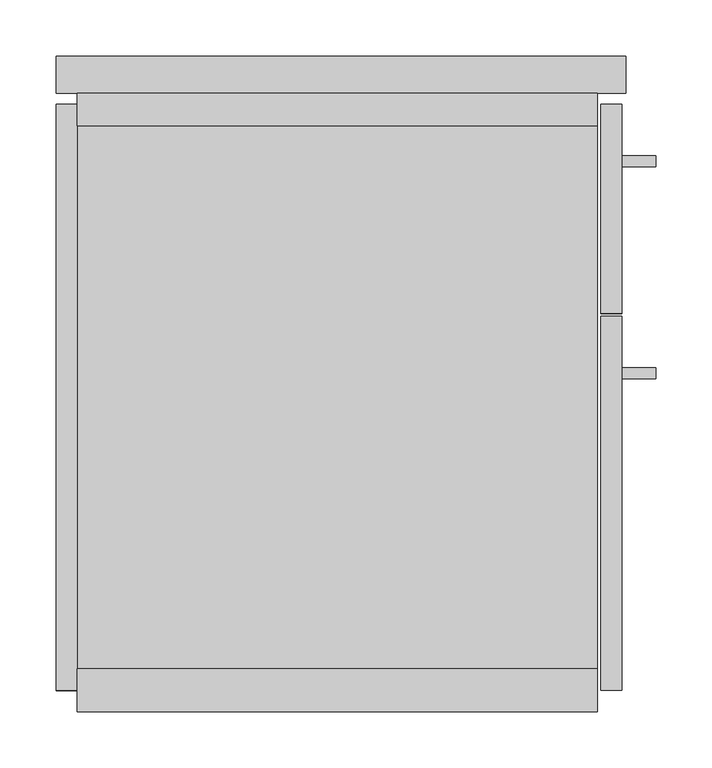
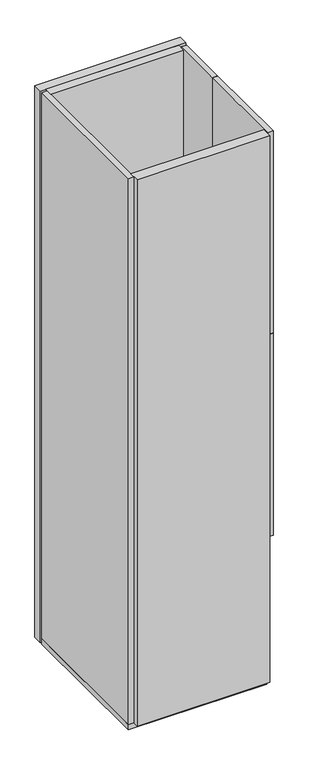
"""IFC4 building model written with IfcOpenShell, lengths in millimetres: proxy geometry, BASYS^U OFFICE 6_ MOD CREDENZA-SOLID ASSEMBLY."""

from ifc_helpers import new_model, si_unit, frame, origin, origin_with_axes, place, context, project, spatial, polyline, outline, extrude, source, transform, mapped, element, save


def generic_models_195da313(model_context):
    return source(origin(), model_context, "Body", "SweptSolid", [
        extrude(outline(polyline([(534.9875, 296.8625), (504.825, 296.8625), (504.825, 306.3875), (534.9875, 306.3875), (534.9875, 296.8625)])), frame((0.0, 0.0, 845.34375), z_axis=(0.0, 0.0, 1.0), x_axis=(1.0, 0.0, 0.0)), (0.0, 0.0, 1.0), 138.1125),
        extrude(outline(polyline([(534.9875, 296.8625), (504.825, 296.8625), (504.825, 306.3875), (534.9875, 306.3875), (534.9875, 296.8625)])), frame((0.0, 0.0, 1592.2625), z_axis=(0.0, 0.0, 1.0), x_axis=(1.0, 0.0, 0.0)), (0.0, 0.0, 1.0), 138.1125),
        extrude(outline(polyline([(534.9875, 485.775), (504.825, 485.775), (504.825, 495.3), (534.9875, 495.3), (534.9875, 485.775)])), frame((0.0, 0.0, 845.34375), z_axis=(0.0, 0.0, 1.0), x_axis=(1.0, 0.0, 0.0)), (0.0, 0.0, 1.0), 138.1125),
        extrude(outline(polyline([(534.9875, 485.775), (504.825, 485.775), (504.825, 495.3), (534.9875, 495.3), (534.9875, 485.775)])), frame((0.0, 0.0, 1592.2625), z_axis=(0.0, 0.0, 1.0), x_axis=(1.0, 0.0, 0.0)), (0.0, 0.0, 1.0), 138.1125),
        extrude(outline(polyline([(0.0, 541.3375), (482.6, 541.3375), (482.6, 19.05), (0.0, 19.05), (0.0, 541.3375)])), origin_with_axes(), (0.0, 0.0, 1.0), 19.05),
        extrude(outline(polyline([(482.6, 38.1), (482.6, 0.0), (19.05, 0.0), (19.05, 38.1), (482.6, 38.1)])), frame((0.0, 0.0, 19.05), z_axis=(0.0, 0.0, 1.0), x_axis=(1.0, 0.0, 0.0)), (0.0, 0.0, 1.0), 2015.728125),
        extrude(outline(polyline([(19.05, 550.8625), (482.6, 550.8625), (482.6, 522.2875), (19.05, 522.2875), (19.05, 550.8625)])), frame((0.0, 0.0, 19.05), z_axis=(0.0, 0.0, 1.0), x_axis=(1.0, 0.0, 0.0)), (0.0, 0.0, 1.0), 2015.728125),
        extrude(outline(polyline([(19.05, 265.1125), (19.05, 284.1625), (450.85, 284.1625), (450.85, 265.1125), (19.05, 265.1125)])), frame((0.0, 0.0, 19.84375), z_axis=(0.0, 0.0, 1.0), x_axis=(1.0, 0.0, 0.0)), (0.0, 0.0, 1.0), 519.1125),
        extrude(outline(polyline([(482.6, 522.2875), (482.6, 38.1), (19.05, 38.1), (19.05, 522.2875), (482.6, 522.2875)])), frame((0.0, 0.0, 1282.7), z_axis=(0.0, 0.0, 1.0), x_axis=(1.0, 0.0, 0.0)), (0.0, 0.0, 1.0), 19.05),
        extrude(outline(polyline([(0.0, 541.3375), (19.05, 541.3375), (19.05, 19.05), (0.0, 19.05), (0.0, 541.3375)])), frame((0.0, 0.0, 19.05), z_axis=(0.0, 0.0, 1.0), x_axis=(1.0, 0.0, 0.0)), (0.0, 0.0, 1.0), 2015.728125),
        extrude(outline(polyline([(508.0, 550.8625), (0.0, 550.8625), (0.0, 584.2), (508.0, 584.2), (508.0, 550.8625)])), origin_with_axes(), (0.0, 0.0, 1.0), 2034.778125),
        extrude(outline(polyline([(485.775, 354.80625), (485.775, 541.3375), (504.825, 541.3375), (504.825, 354.80625), (485.775, 354.80625)])), frame((0.0, 0.0, 1289.05), z_axis=(0.0, 0.0, 1.0), x_axis=(1.0, 0.0, 0.0)), (0.0, 0.0, 1.0), 744.5375),
        extrude(outline(polyline([(485.775, 354.80625), (485.775, 541.3375), (504.825, 541.3375), (504.825, 354.80625), (485.775, 354.80625)])), frame((0.0, 0.0, 542.13125), z_axis=(0.0, 0.0, 1.0), x_axis=(1.0, 0.0, 0.0)), (0.0, 0.0, 1.0), 744.5375),
        extrude(outline(polyline([(485.775, 19.05), (485.775, 352.425), (504.825, 352.425), (504.825, 19.05), (485.775, 19.05)])), frame((0.0, 0.0, 1289.05), z_axis=(0.0, 0.0, 1.0), x_axis=(1.0, 0.0, 0.0)), (0.0, 0.0, 1.0), 744.5375),
        extrude(outline(polyline([(485.775, 19.05), (485.775, 352.425), (504.825, 352.425), (504.825, 19.05), (485.775, 19.05)])), frame((0.0, 0.0, 542.13125), z_axis=(0.0, 0.0, 1.0), x_axis=(1.0, 0.0, 0.0)), (0.0, 0.0, 1.0), 744.5375),
    ])


if __name__ == "__main__":
    model = new_model("IFC4")
    model_context = context("Model", 3, world=origin())
    ifc_project = project(units=[si_unit("LENGTHUNIT", "METRE", prefix="MILLI")], contexts=[model_context])
    site = spatial("IfcSite", under=ifc_project)
    building = spatial("IfcBuilding", under=site)
    placement = place(None, origin())
    generic_models_shape = generic_models_195da313(model_context)
    element("IfcBuildingElementProxy", 1, Name="BASYS^U OFFICE 6_ MOD CREDENZA-SOLID ASSEMBLY", ObjectType="BASYS^U OFFICE 6_ MOD CREDENZA-SOLID ASSEMBLY", at=placement, inside=building, context=model_context, shape_type="MappedRepresentation", body=[
        mapped(generic_models_shape, transform((0.0, 0.0, 0.0), x_axis=(1.0, 0.0, 0.0), y_axis=(0.0, 1.0, 0.0), z_axis=(0.0, 0.0, 1.0))),
    ])
    save(model, "model.ifc")
